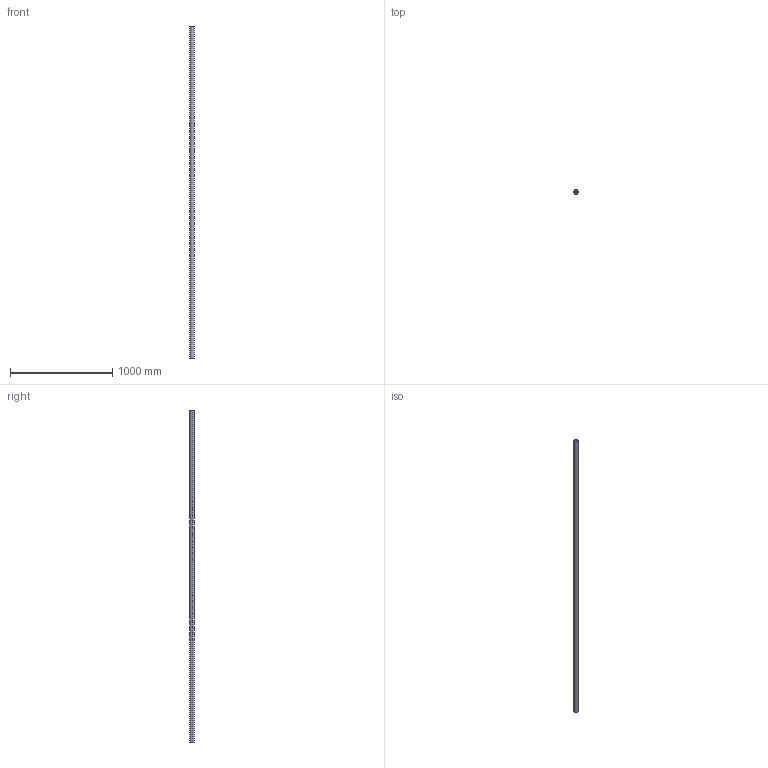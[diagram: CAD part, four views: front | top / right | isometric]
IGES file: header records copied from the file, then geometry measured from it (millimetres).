
Start section: SolidWorks IGES file using analytic representation for surfaces
Global section: file name: C:\Users\IanO\Desktop\L1771_v2\L1771.40_v2\L1771.40_v2_20230705_IGES\L1771.40-3250.igs; native system: SolidWorks 2019; preprocessor: SolidWorks 2019; author: IanO; date: 230705.161749; units: millimetre
Bounding box: 40 x 40 x 3250 mm (x, y, z)
Surface area: 695573.7 mm2 (no closed solid volume)
Topology: 0 solids, 0 shells, 6 faces, 272 edges, 272 vertices
Faces by surface type: revolution 4, bspline 2
